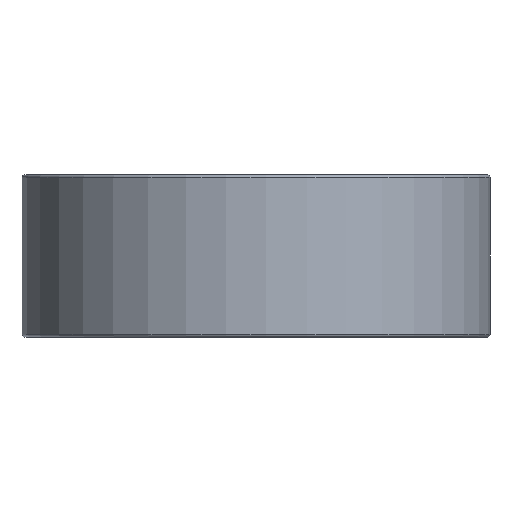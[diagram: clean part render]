
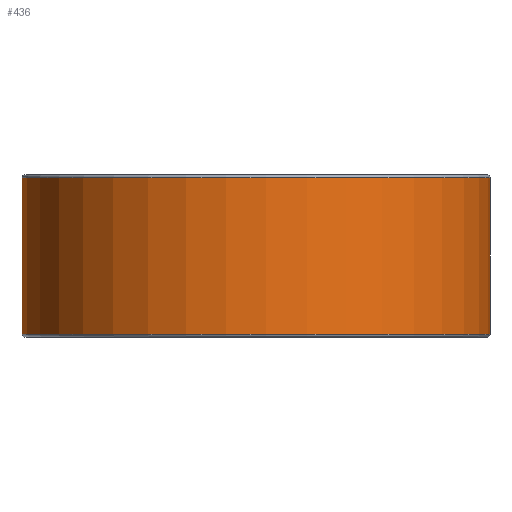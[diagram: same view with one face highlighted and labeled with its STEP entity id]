
A CAD part, front view. The second image highlights one B-rep face of the part: STEP entity #436.
In plain terms, the highlighted cylindrical face has radius 39 mm (diameter 78 mm), a full revolution.
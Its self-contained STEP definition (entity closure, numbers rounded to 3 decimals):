
#372=FACE_BOUND('',#578,.T.);
#373=FACE_BOUND('',#579,.T.);
#436=ADVANCED_FACE('',(#372,#373),#509,.T.);
#509=CYLINDRICAL_SURFACE('',#1414,39.);
#578=EDGE_LOOP('',(#753));
#579=EDGE_LOOP('',(#754));
#689=CIRCLE('',#1412,39.);
#690=CIRCLE('',#1413,39.);
#753=ORIENTED_EDGE('',*,*,#1125,.T.);
#754=ORIENTED_EDGE('',*,*,#1126,.T.);
#1025=VERTEX_POINT('',#1913);
#1026=VERTEX_POINT('',#1915);
#1125=EDGE_CURVE('',#1025,#1025,#689,.T.);
#1126=EDGE_CURVE('',#1026,#1026,#690,.T.);
#1412=AXIS2_PLACEMENT_3D('',#1912,#1565,#1566);
#1413=AXIS2_PLACEMENT_3D('',#1914,#1567,#1568);
#1414=AXIS2_PLACEMENT_3D('',#1916,#1569,#1570);
#1565=DIRECTION('',(0.,0.,-1.));
#1566=DIRECTION('',(1.,0.,0.));
#1567=DIRECTION('',(0.,0.,1.));
#1568=DIRECTION('',(1.,0.,0.));
#1569=DIRECTION('',(0.,0.,-1.));
#1570=DIRECTION('',(-1.,0.,0.));
#1912=CARTESIAN_POINT('',(0.,0.,26.5));
#1913=CARTESIAN_POINT('',(39.,0.,26.5));
#1914=CARTESIAN_POINT('',(0.,0.,0.5));
#1915=CARTESIAN_POINT('',(39.,0.,0.5));
#1916=CARTESIAN_POINT('',(0.,0.,27.));
